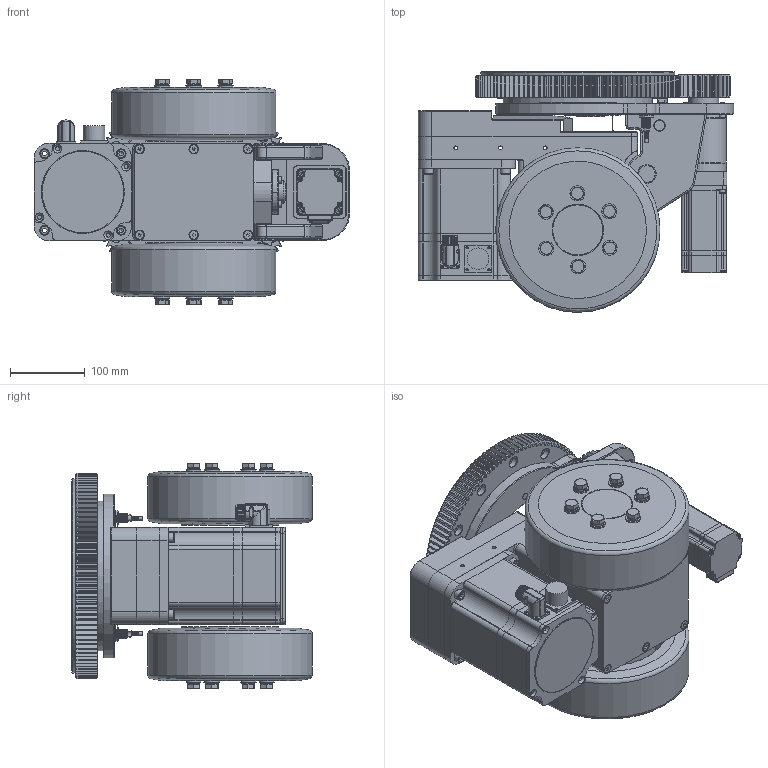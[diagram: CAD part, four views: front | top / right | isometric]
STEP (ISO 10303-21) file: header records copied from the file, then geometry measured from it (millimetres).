
FILE_DESCRIPTION (( 'STEP AP214' ), '1' );
FILE_NAME ('2019-5-6差分活动式舵轮总成.STEP', '2019-05-08T14:06:45', ( '' ), ( '' ), 'SwSTEP 2.0', 'SolidWorks 2016', '' );
FILE_SCHEMA (( 'AUTOMOTIVE_DESIGN' ));
Length unit declared in the file: millimetre
Products named in the file (1): 2019-5-6差分活动式舵轮总成
Bounding box: 422.25 x 322 x 302.36 mm (x, y, z)
Surface area: 981236.3 mm2 (no closed solid volume)
Topology: 0 solids, 192 shells, 2177 faces, 6832 edges, 4748 vertices
Faces by surface type: cylinder 956, plane 669, cone 437, torus 70, bspline 40, sphere 5
Full cylindrical faces by diameter (mm): 2.6 x3, 3 x3, 4.5 x10, 4.7 x4, 5 x10, 5.1 x2, 5.5 x6, 8.5 x20, 9.43 x1, 10 x2, 11.34 x6, 13 x4, 15 x18, 15.8 x1, 16.1 x12, 18 x8, 19.3 x1, 19.5 x1, 19.8 x6, 20 x12, 20.8 x8, 22 x1, 24 x2, 29 x1, 30 x1, 38 x2, 40 x1, 42 x1, 59.8 x1, 60 x2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
Entity records: 112814 total; most frequent: CARTESIAN_POINT 30600, DIRECTION 12480, ORIENTED_EDGE 10684, EDGE_CURVE 6439, AXIS2_PLACEMENT_3D 4952, VERTEX_POINT 4669, CIRCLE 2814, EDGE_LOOP 2793
